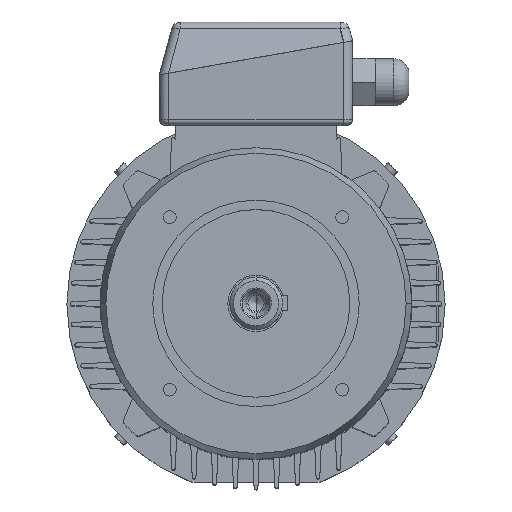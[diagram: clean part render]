
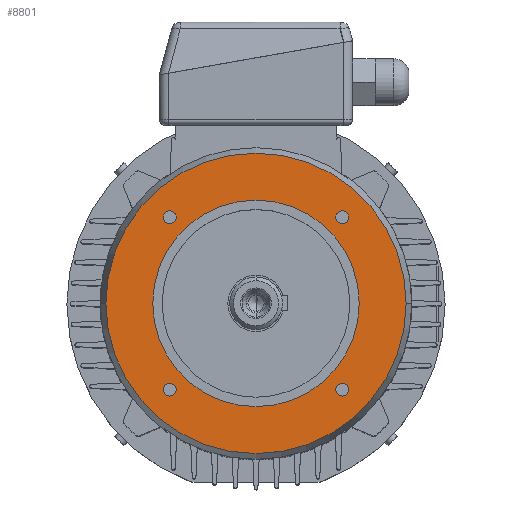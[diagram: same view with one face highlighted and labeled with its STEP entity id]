
A CAD part, top view. The second image highlights one B-rep face of the part: STEP entity #8801.
In plain terms, the highlighted planar face has unit normal (0, 0, 1).
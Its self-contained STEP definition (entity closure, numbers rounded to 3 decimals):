
#86 = EDGE_CURVE ( 'NONE', #791, #1057, #1458, .T. ) ;
#141 = EDGE_LOOP ( 'NONE', ( #185, #12590 ) ) ;
#185 = ORIENTED_EDGE ( 'NONE', *, *, #86, .F. ) ;
#320 = EDGE_CURVE ( 'NONE', #4096, #4351, #2007, .T. ) ;
#411 = ORIENTED_EDGE ( 'NONE', *, *, #320, .F. ) ;
#535 = ORIENTED_EDGE ( 'NONE', *, *, #4590, .F. ) ;
#633 = EDGE_LOOP ( 'NONE', ( #535, #411 ) ) ;
#698 = ORIENTED_EDGE ( 'NONE', *, *, #9227, .T. ) ;
#791 = VERTEX_POINT ( 'NONE', #3006 ) ;
#818 = ORIENTED_EDGE ( 'NONE', *, *, #1304, .T. ) ;
#846 = EDGE_CURVE ( 'NONE', #1057, #791, #3154, .T. ) ;
#942 = EDGE_LOOP ( 'NONE', ( #818, #698 ) ) ;
#996 = ORIENTED_EDGE ( 'NONE', *, *, #7502, .F. ) ;
#1057 = VERTEX_POINT ( 'NONE', #3577 ) ;
#1121 = EDGE_CURVE ( 'NONE', #7249, #9046, #3703, .T. ) ;
#1210 = ORIENTED_EDGE ( 'NONE', *, *, #1121, .F. ) ;
#1246 = VERTEX_POINT ( 'NONE', #3947 ) ;
#1304 = EDGE_CURVE ( 'NONE', #1246, #2281, #4083, .T. ) ;
#1458 = CIRCLE ( 'NONE', #1459, 3.4 ) ;
#1459 = AXIS2_PLACEMENT_3D ( 'NONE', #1460, #1461, #1462 ) ;
#1460 = CARTESIAN_POINT ( 'NONE',  ( -45.962, 45.962, 45. ) ) ;
#1461 = DIRECTION ( 'NONE',  ( 0., 0., 1. ) ) ;
#1462 = DIRECTION ( 'NONE',  ( 1., 0., 0. ) ) ;
#2007 = CIRCLE ( 'NONE', #2008, 80. ) ;
#2008 = AXIS2_PLACEMENT_3D ( 'NONE', #2009, #2010, #2011 ) ;
#2009 = CARTESIAN_POINT ( 'NONE',  ( 0., 0., 45. ) ) ;
#2010 = DIRECTION ( 'NONE',  ( 0., 0., -1. ) ) ;
#2011 = DIRECTION ( 'NONE',  ( 0., 1., 0. ) ) ;
#2281 = VERTEX_POINT ( 'NONE', #4582 ) ;
#3006 = CARTESIAN_POINT ( 'NONE',  ( -42.562, 45.962, 45. ) ) ;
#3154 = CIRCLE ( 'NONE', #3155, 3.4 ) ;
#3155 = AXIS2_PLACEMENT_3D ( 'NONE', #3156, #3157, #3158 ) ;
#3156 = CARTESIAN_POINT ( 'NONE',  ( -45.962, 45.962, 45. ) ) ;
#3157 = DIRECTION ( 'NONE',  ( 0., 0., 1. ) ) ;
#3158 = DIRECTION ( 'NONE',  ( 1., 0., 0. ) ) ;
#3577 = CARTESIAN_POINT ( 'NONE',  ( -49.362, 45.962, 45. ) ) ;
#3703 = CIRCLE ( 'NONE', #3704, 3.4 ) ;
#3704 = AXIS2_PLACEMENT_3D ( 'NONE', #3705, #3706, #3707 ) ;
#3705 = CARTESIAN_POINT ( 'NONE',  ( 45.962, 45.962, 45. ) ) ;
#3706 = DIRECTION ( 'NONE',  ( 0., 0., 1. ) ) ;
#3707 = DIRECTION ( 'NONE',  ( 1., 0., 0. ) ) ;
#3779 = VERTEX_POINT ( 'NONE', #5380 ) ;
#3947 = CARTESIAN_POINT ( 'NONE',  ( 0., 55., 45. ) ) ;
#4016 = EDGE_CURVE ( 'NONE', #5008, #3779, #5559, .T. ) ;
#4083 = CIRCLE ( 'NONE', #4084, 55. ) ;
#4084 = AXIS2_PLACEMENT_3D ( 'NONE', #4085, #4086, #4087 ) ;
#4085 = CARTESIAN_POINT ( 'NONE',  ( 0., 0., 45. ) ) ;
#4086 = DIRECTION ( 'NONE',  ( 0., 0., -1. ) ) ;
#4087 = DIRECTION ( 'NONE',  ( 0., 1., 0. ) ) ;
#4096 = VERTEX_POINT ( 'NONE', #5625 ) ;
#4351 = VERTEX_POINT ( 'NONE', #5869 ) ;
#4582 = CARTESIAN_POINT ( 'NONE',  ( 0., -55., 45. ) ) ;
#4590 = EDGE_CURVE ( 'NONE', #4351, #4096, #6133, .T. ) ;
#5008 = VERTEX_POINT ( 'NONE', #6530 ) ;
#5075 = CIRCLE ( 'NONE', #5076, 3.4 ) ;
#5076 = AXIS2_PLACEMENT_3D ( 'NONE', #5077, #5078, #5079 ) ;
#5077 = CARTESIAN_POINT ( 'NONE',  ( 45.962, -45.962, 45. ) ) ;
#5078 = DIRECTION ( 'NONE',  ( 0., 0., 1. ) ) ;
#5079 = DIRECTION ( 'NONE',  ( 1., 0., 0. ) ) ;
#5380 = CARTESIAN_POINT ( 'NONE',  ( -42.562, -45.962, 45. ) ) ;
#5559 = CIRCLE ( 'NONE', #5560, 3.4 ) ;
#5560 = AXIS2_PLACEMENT_3D ( 'NONE', #5561, #5562, #5563 ) ;
#5561 = CARTESIAN_POINT ( 'NONE',  ( -45.962, -45.962, 45. ) ) ;
#5562 = DIRECTION ( 'NONE',  ( 0., 0., 1. ) ) ;
#5563 = DIRECTION ( 'NONE',  ( 1., 0., 0. ) ) ;
#5625 = CARTESIAN_POINT ( 'NONE',  ( 0., -80., 45. ) ) ;
#5805 = CIRCLE ( 'NONE', #5806, 3.4 ) ;
#5806 = AXIS2_PLACEMENT_3D ( 'NONE', #5807, #5808, #5809 ) ;
#5807 = CARTESIAN_POINT ( 'NONE',  ( -45.962, -45.962, 45. ) ) ;
#5808 = DIRECTION ( 'NONE',  ( 0., 0., 1. ) ) ;
#5809 = DIRECTION ( 'NONE',  ( 1., 0., 0. ) ) ;
#5869 = CARTESIAN_POINT ( 'NONE',  ( 0., 80., 45. ) ) ;
#6133 = CIRCLE ( 'NONE', #6134, 80. ) ;
#6134 = AXIS2_PLACEMENT_3D ( 'NONE', #6135, #6136, #6137 ) ;
#6135 = CARTESIAN_POINT ( 'NONE',  ( 0., 0., 45. ) ) ;
#6136 = DIRECTION ( 'NONE',  ( 0., 0., -1. ) ) ;
#6137 = DIRECTION ( 'NONE',  ( 0., 1., 0. ) ) ;
#6530 = CARTESIAN_POINT ( 'NONE',  ( -49.362, -45.962, 45. ) ) ;
#7249 = VERTEX_POINT ( 'NONE', #7879 ) ;
#7502 = EDGE_CURVE ( 'NONE', #9046, #7249, #8052, .T. ) ;
#7879 = CARTESIAN_POINT ( 'NONE',  ( 49.362, 45.962, 45. ) ) ;
#8052 = CIRCLE ( 'NONE', #8053, 3.4 ) ;
#8053 = AXIS2_PLACEMENT_3D ( 'NONE', #8054, #8055, #8056 ) ;
#8054 = CARTESIAN_POINT ( 'NONE',  ( 45.962, 45.962, 45. ) ) ;
#8055 = DIRECTION ( 'NONE',  ( 0., 0., 1. ) ) ;
#8056 = DIRECTION ( 'NONE',  ( 1., 0., 0. ) ) ;
#8801 = ADVANCED_FACE ( 'NONE', ( #9257, #9258, #9259, #9260, #9261, #9262 ), #9263, .T. ) ;
#9046 = VERTEX_POINT ( 'NONE', #9366 ) ;
#9227 = EDGE_CURVE ( 'NONE', #2281, #1246, #9451, .T. ) ;
#9257 = FACE_BOUND ( 'NONE', #141, .T. ) ;
#9258 = FACE_BOUND ( 'NONE', #12532, .T. ) ;
#9259 = FACE_BOUND ( 'NONE', #12140, .T. ) ;
#9260 = FACE_BOUND ( 'NONE', #11752, .T. ) ;
#9261 = FACE_BOUND ( 'NONE', #942, .T. ) ;
#9262 = FACE_OUTER_BOUND ( 'NONE', #633, .T. ) ;
#9263 = PLANE ( 'NONE',  #9264 ) ;
#9264 = AXIS2_PLACEMENT_3D ( 'NONE', #9272, #9273, #9274 ) ;
#9272 = CARTESIAN_POINT ( 'NONE',  ( 0., 80., 45. ) ) ;
#9273 = DIRECTION ( 'NONE',  ( 0., 0., 1. ) ) ;
#9274 = DIRECTION ( 'NONE',  ( 0., -1., 0. ) ) ;
#9366 = CARTESIAN_POINT ( 'NONE',  ( 42.562, 45.962, 45. ) ) ;
#9451 = CIRCLE ( 'NONE', #9452, 55. ) ;
#9452 = AXIS2_PLACEMENT_3D ( 'NONE', #9453, #9454, #9455 ) ;
#9453 = CARTESIAN_POINT ( 'NONE',  ( 0., 0., 45. ) ) ;
#9454 = DIRECTION ( 'NONE',  ( 0., 0., -1. ) ) ;
#9455 = DIRECTION ( 'NONE',  ( 0., 1., 0. ) ) ;
#9651 = VERTEX_POINT ( 'NONE', #9656 ) ;
#9656 = CARTESIAN_POINT ( 'NONE',  ( 42.562, -45.962, 45. ) ) ;
#11176 = CIRCLE ( 'NONE', #11177, 3.4 ) ;
#11177 = AXIS2_PLACEMENT_3D ( 'NONE', #11178, #11179, #11180 ) ;
#11178 = CARTESIAN_POINT ( 'NONE',  ( 45.962, -45.962, 45. ) ) ;
#11179 = DIRECTION ( 'NONE',  ( 0., 0., 1. ) ) ;
#11180 = DIRECTION ( 'NONE',  ( 1., 0., 0. ) ) ;
#11425 = CARTESIAN_POINT ( 'NONE',  ( 49.362, -45.962, 45. ) ) ;
#11752 = EDGE_LOOP ( 'NONE', ( #1210, #996 ) ) ;
#11819 = ORIENTED_EDGE ( 'NONE', *, *, #12119, .F. ) ;
#11947 = EDGE_CURVE ( 'NONE', #12077, #9651, #11176, .T. ) ;
#12033 = ORIENTED_EDGE ( 'NONE', *, *, #11947, .F. ) ;
#12077 = VERTEX_POINT ( 'NONE', #11425 ) ;
#12119 = EDGE_CURVE ( 'NONE', #9651, #12077, #5075, .T. ) ;
#12140 = EDGE_LOOP ( 'NONE', ( #12033, #11819 ) ) ;
#12206 = ORIENTED_EDGE ( 'NONE', *, *, #4016, .F. ) ;
#12317 = EDGE_CURVE ( 'NONE', #3779, #5008, #5805, .T. ) ;
#12414 = ORIENTED_EDGE ( 'NONE', *, *, #12317, .F. ) ;
#12532 = EDGE_LOOP ( 'NONE', ( #12414, #12206 ) ) ;
#12590 = ORIENTED_EDGE ( 'NONE', *, *, #846, .F. ) ;
